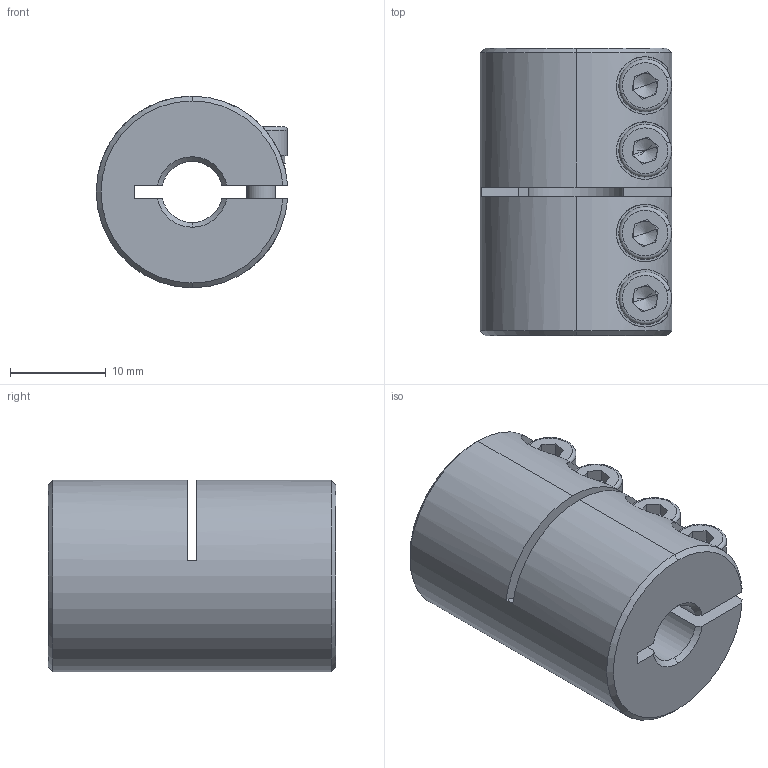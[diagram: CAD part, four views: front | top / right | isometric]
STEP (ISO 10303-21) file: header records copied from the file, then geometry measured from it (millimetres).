
FILE_DESCRIPTION (( 'STEP AP203' ), '1' );
FILE_NAME ('LL-B-D20L30-6.35-10.STEP', '2021-11-05T03:15:38', ( '' ), ( '' ), 'SwSTEP 2.0', 'SolidWorks 2018', '' );
FILE_SCHEMA (( 'CONFIG_CONTROL_DESIGN' ));
Length unit declared in the file: millimetre
Products named in the file (1): LL-B-D20L30-6.35-10
Bounding box: 19.98 x 30 x 20 mm (x, y, z)
Volume: 7139.1 mm3; surface area: 4554.3 mm2
Topology: 1 solids, 1 shells, 178 faces, 459 edges, 287 vertices
Faces by surface type: plane 89, cylinder 61, cone 20, torus 8
Entity records: 5821 total; most frequent: CARTESIAN_POINT 1349, DIRECTION 958, ORIENTED_EDGE 902, EDGE_CURVE 451, AXIS2_PLACEMENT_3D 368, VERTEX_POINT 287, LINE 222, VECTOR 222
